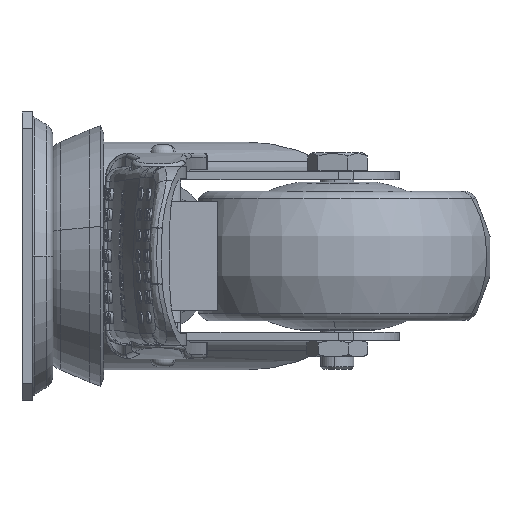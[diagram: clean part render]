
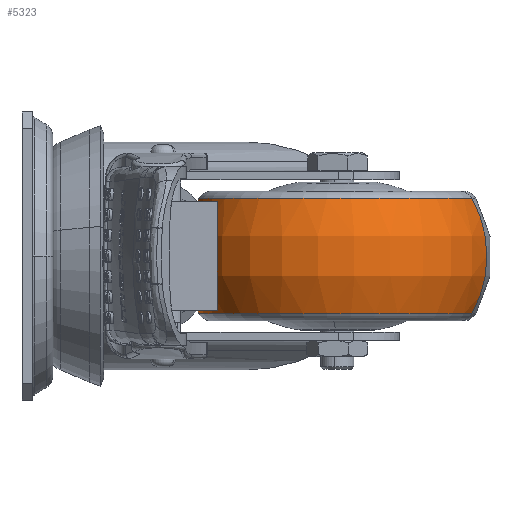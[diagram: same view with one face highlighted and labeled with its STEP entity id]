
A CAD part, left-side view. The second image highlights one B-rep face of the part: STEP entity #5323.
In plain terms, the highlighted toroidal (fillet/blend) face has major radius 9.5 mm and minor radius 28 mm.
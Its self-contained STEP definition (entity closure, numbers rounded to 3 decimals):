
#5323 = ADVANCED_FACE ( 'NONE', ( #19022 ), #16276, .T. ) ;
#16276 = TOROIDAL_SURFACE ( 'NONE', #16285, 9.5, 28. ) ;
#16285 = AXIS2_PLACEMENT_3D ( 'NONE', #19027, #19021, #19032 ) ;
#19021 = DIRECTION ( 'NONE',  ( 0., 0., -1. ) ) ;
#19022 = FACE_OUTER_BOUND ( 'NONE', #39064, .T. ) ;
#19027 = CARTESIAN_POINT ( 'NONE',  ( -34.261, -18.518, 0.891 ) ) ;
#19032 = DIRECTION ( 'NONE',  ( -0.248, -0.969, 0. ) ) ;
#21282 = EDGE_CURVE ( 'NONE', #52103, #52100, #25307, .T. ) ;
#21325 = EDGE_CURVE ( 'NONE', #52106, #52103, #25315, .T. ) ;
#22374 = EDGE_CURVE ( 'NONE', #52106, #52097, #25590, .T. ) ;
#22377 = EDGE_CURVE ( 'NONE', #52097, #52100, #25588, .T. ) ;
#24745 = CARTESIAN_POINT ( 'NONE',  ( -31.904, -9.315, 0.891 ) ) ;
#24746 = DIRECTION ( 'NONE',  ( -0.969, 0.248, 0. ) ) ;
#24747 = DIRECTION ( 'NONE',  ( -0.248, -0.969, 0. ) ) ;
#24809 = CARTESIAN_POINT ( 'NONE',  ( -34.261, -18.518, 14.891 ) ) ;
#24810 = DIRECTION ( 'NONE',  ( 0., 0., -1. ) ) ;
#24811 = DIRECTION ( 'NONE',  ( -0.248, -0.969, 0. ) ) ;
#25307 = CIRCLE ( 'NONE', #25312, 28. ) ;
#25312 = AXIS2_PLACEMENT_3D ( 'NONE', #24745, #24746, #24747 ) ;
#25315 = CIRCLE ( 'NONE', #25316, 33.749 ) ;
#25316 = AXIS2_PLACEMENT_3D ( 'NONE', #24809, #24810, #24811 ) ;
#25588 = CIRCLE ( 'NONE', #25593, 33.749 ) ;
#25590 = CIRCLE ( 'NONE', #25591, 28. ) ;
#25591 = AXIS2_PLACEMENT_3D ( 'NONE', #31119, #31120, #31121 ) ;
#25593 = AXIS2_PLACEMENT_3D ( 'NONE', #31124, #31125, #31126 ) ;
#31119 = CARTESIAN_POINT ( 'NONE',  ( -36.618, -27.721, 0.891 ) ) ;
#31120 = DIRECTION ( 'NONE',  ( 0.969, -0.248, 0. ) ) ;
#31121 = DIRECTION ( 'NONE',  ( 0.248, 0.969, 0. ) ) ;
#31124 = CARTESIAN_POINT ( 'NONE',  ( -34.261, -18.518, -13.109 ) ) ;
#31125 = DIRECTION ( 'NONE',  ( 0., 0., -1. ) ) ;
#31126 = DIRECTION ( 'NONE',  ( -0.248, -0.969, 0. ) ) ;
#39064 = EDGE_LOOP ( 'NONE', ( #89498, #89499, #89500, #89501 ) ) ;
#52097 = VERTEX_POINT ( 'NONE', #70482 ) ;
#52100 = VERTEX_POINT ( 'NONE', #70476 ) ;
#52103 = VERTEX_POINT ( 'NONE', #70485 ) ;
#52106 = VERTEX_POINT ( 'NONE', #70486 ) ;
#70476 = CARTESIAN_POINT ( 'NONE',  ( -25.888, 14.176, -13.109 ) ) ;
#70482 = CARTESIAN_POINT ( 'NONE',  ( -42.634, -51.211, -13.109 ) ) ;
#70485 = CARTESIAN_POINT ( 'NONE',  ( -25.888, 14.176, 14.891 ) ) ;
#70486 = CARTESIAN_POINT ( 'NONE',  ( -42.634, -51.211, 14.891 ) ) ;
#89498 = ORIENTED_EDGE ( 'NONE', *, *, #21325, .T. ) ;
#89499 = ORIENTED_EDGE ( 'NONE', *, *, #21282, .T. ) ;
#89500 = ORIENTED_EDGE ( 'NONE', *, *, #22377, .F. ) ;
#89501 = ORIENTED_EDGE ( 'NONE', *, *, #22374, .F. ) ;
